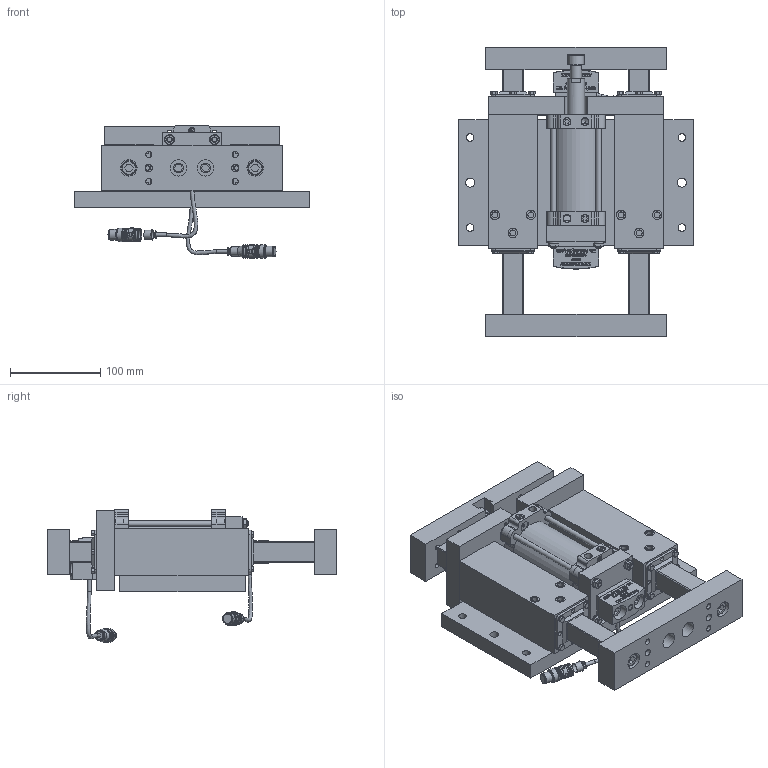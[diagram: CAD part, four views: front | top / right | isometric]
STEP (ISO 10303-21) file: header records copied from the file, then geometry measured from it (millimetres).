
FILE_DESCRIPTION(/* description */ (''),/* implementation_level */ '2;1');
FILE_NAME(/* name */ 'C:\Vault Workspace\CAD\Welker\Shot Pin\DBL24\STANDARD\DB2050B01XP1XXX0000-RET.stp',/* time_stamp */ '2018-03-26T07:24:17-04:00',/* author */ ('KLabrecque'),/* organization */ (''),/* preprocessor_version */ 'ST-DEVELOPER v17',/* originating_system */ 'Autodesk Inventor 2018',/* authorisation */ '');
FILE_SCHEMA (('AUTOMOTIVE_DESIGN { 1 0 10303 214 3 1 1 }'));
Products named in the file (1): DB2L01_Shrinkwrap_1
Bounding box: 260 x 321 x 147.3 mm (x, y, z)
Volume: 2786124.2 mm3; surface area: 656611.9 mm2
Topology: 110 solids, 110 shells, 3469 faces, 8732 edges, 5823 vertices
Faces by surface type: plane 1842, cylinder 613, bspline 554, cone 437, torus 23
Full cylindrical faces by diameter (mm): 2.5 x1, 3.175 x6, 3.734 x16, 4.064 x2, 4.166 x16, 4.2 x2, 4.763 x32, 4.917 x12, 5.359 x8, 6 x12, 6.35 x2, 6.5 x34, 6.63 x2, 6.647 x14, 7.95 x4, 8 x30, 8.13 x2, 8.334 x12, 8.376 x12, 8.5 x12, 8.7 x12, 9.728 x3, 10 x18, 10.211 x2, 10.287 x2, 10.35 x24, 10.494 x2, 10.5 x10, 10.7 x4, 10.8 x4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
Entity records: 113276 total; most frequent: CARTESIAN_POINT 28925, ORIENTED_EDGE 17352, DIRECTION 15054, EDGE_CURVE 8676, VERTEX_POINT 5823, AXIS2_PLACEMENT_3D 5132, LINE 4790, VECTOR 4790
